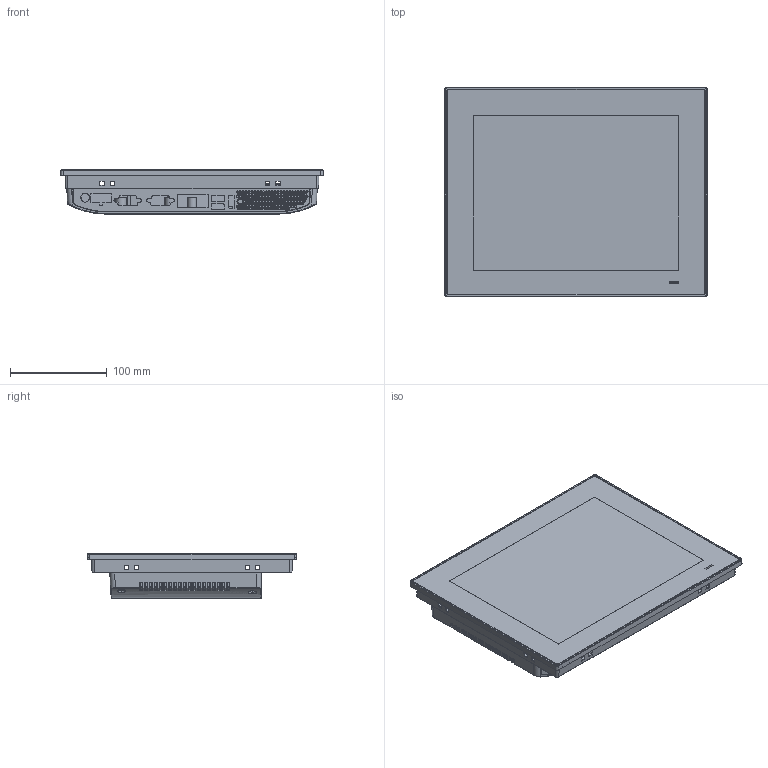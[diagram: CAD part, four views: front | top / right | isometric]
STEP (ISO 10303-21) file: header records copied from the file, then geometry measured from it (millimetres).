
FILE_DESCRIPTION (( 'STEP AP214' ), '1' );
FILE_NAME ('3D-assm for PPC-3100S.STEP', '2016-05-11T02:37:53', ( '' ), ( '' ), 'SwSTEP 2.0', 'SolidWorks 2013', '' );
FILE_SCHEMA (( 'AUTOMOTIVE_DESIGN' ));
Length unit declared in the file: millimetre
Products named in the file (5): AMT-10_4 for PPC-1102_蕼偞; front bezel for PPC-1102; 3D-assm for PPC-3100S; rear cover w_HDD for PPC-1101_蕼偞; mb cover_wo door w_HDD for PPC-1101_蕼偞
Assembly tree (4 placements, depth 2):
  3D-assm for PPC-3100S
    rear cover w_HDD for PPC-1101_蕼偞
    mb cover_wo door w_HDD for PPC-1101_蕼偞
    AMT-10_4 for PPC-1102_蕼偞
    front bezel for PPC-1102
Bounding box: 271.8 x 216.8 x 45.7 mm (x, y, z)
Volume: 212117.3 mm3; surface area: 416384.4 mm2
Topology: 4 solids, 6 shells, 1753 faces, 4547 edges, 2842 vertices
Faces by surface type: cylinder 923, plane 460, bspline 316, cone 42, torus 12
Entity records: 81757 total; most frequent: CARTESIAN_POINT 23624, ORIENTED_EDGE 9088, DIRECTION 6617, EDGE_CURVE 4547, VERTEX_POINT 2842, AXIS2_PLACEMENT_3D 2250, EDGE_LOOP 2236, VECTOR 2117
